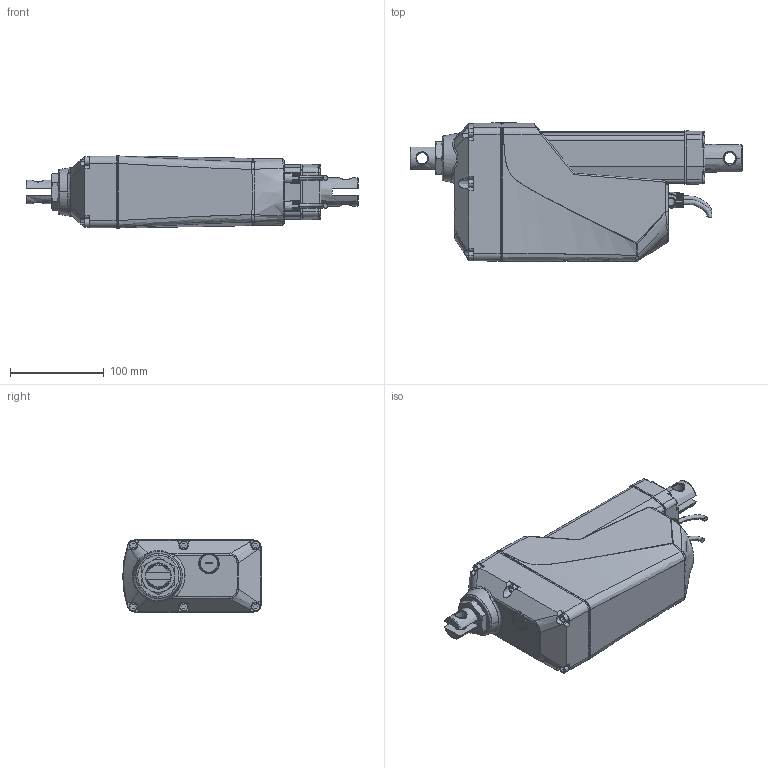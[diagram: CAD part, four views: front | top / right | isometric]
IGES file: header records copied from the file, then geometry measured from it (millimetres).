
Start section: SolidWorks IGES file using NURBS representation for surfaces
Global section: file name: C:\Users\lynn\Desktop\MK35-3D\MK35-229-100-SLOT.IGS; native system: SolidWorks 2015; preprocessor: SolidWorks 2015; author: lynn; date: 210723.104817; units: millimetre
Bounding box: 355 x 148 x 77 mm (x, y, z)
Surface area: 230825.7 mm2 (no closed solid volume)
Topology: 0 solids, 0 shells, 762 faces, 9170 edges, 9164 vertices
Faces by surface type: bspline 762
